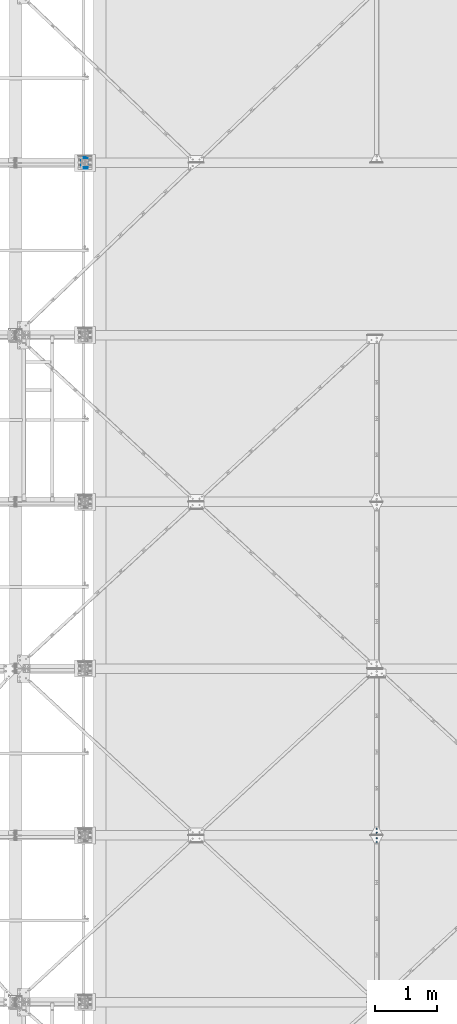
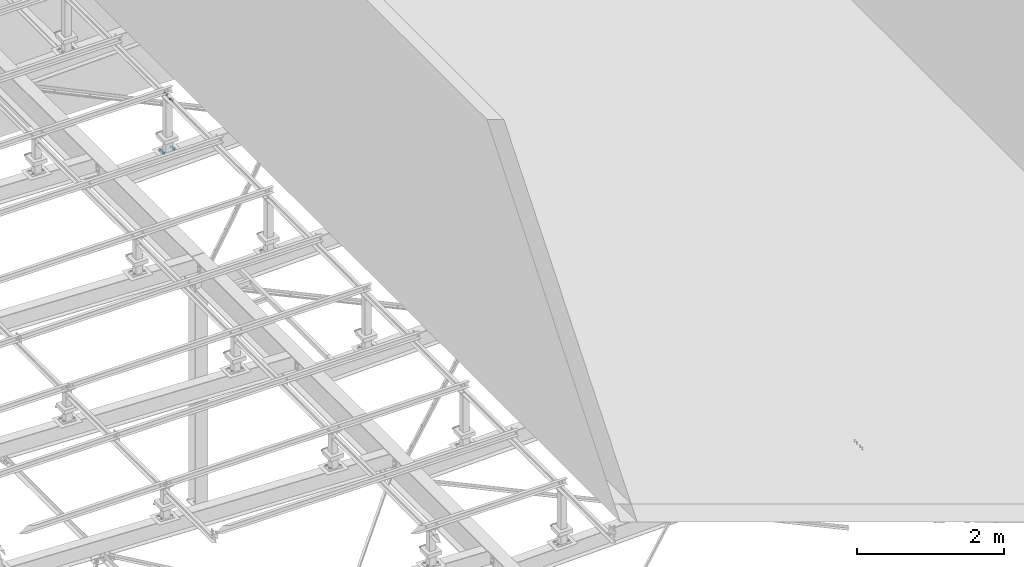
# One storey, part 194 of 3134: 5 mechanical fasteners, 4 elements without a shape of their own.
"""IFC2X3 building model written with IfcOpenShell, lengths in millimetres."""

from ifc_helpers import new_model, si_unit, frame, origin_with_axes, place, context, subcontext, project, spatial, faceted_brep, source, transform, mapped, material, type_object, element, aggregate, save


model = new_model("IFC2X3")

# Units and contexts
model_context = context("Model", 3, precision=1e-05, world=origin_with_axes())
body_context = subcontext(model_context, "Body", "Model", "MODEL_VIEW")
ifc_project = project(units=[si_unit("LENGTHUNIT", "METRE", prefix="MILLI"), si_unit("AREAUNIT", "SQUARE_METRE"), si_unit("VOLUMEUNIT", "CUBIC_METRE"), si_unit("MASSUNIT", "GRAM", prefix="KILO"), si_unit("TIMEUNIT", "SECOND"), si_unit("PLANEANGLEUNIT", "RADIAN"), si_unit("SOLIDANGLEUNIT", "STERADIAN"), si_unit("THERMODYNAMICTEMPERATUREUNIT", "DEGREE_CELSIUS"), si_unit("LUMINOUSINTENSITYUNIT", "LUMEN")], contexts=[model_context])

# Site, building, storey
site_placement = place(None, origin_with_axes())
site = spatial("IfcSite", under=ifc_project, at=site_placement, CompositionType="ELEMENT")
building_placement = place(site_placement, origin_with_axes())
building = spatial("IfcBuilding", under=site, at=building_placement, Name="Undefined", CompositionType="ELEMENT")
storey_placement = place(building_placement, origin_with_axes())
storey = spatial("IfcBuildingStorey", under=building, at=storey_placement, Name="Undefined", CompositionType="ELEMENT", Elevation=0.0)

# Assembly, mechanical fastener
assembly_1_placement = place(storey_placement, origin_with_axes())
assembly_1 = element("IfcElementAssembly", 1, at=assembly_1_placement, inside=storey, AssemblyPlace="NOTDEFINED", PredefinedType="RIGID_FRAME")
ifc_material = material(Name="8.8")
mechanical_fastener_type = type_object("IfcMechanicalFastenerType", Name="Bolt assembly")
shared_shape_1 = source(origin_with_axes(), body_context, "Body", "Brep", [
    faceted_brep([(10.9696551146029, -14.0, 0.0), (5.48482755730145, -14.0, 9.5), (-5.48482755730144, -14.0, 9.5), (-10.9696551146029, -14.0, 1.34339530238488e-15), (-5.48482755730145, -14.0, -9.5), (5.48482755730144, -14.0, -9.50000000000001), (5.48482755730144, -6.0, -9.50000000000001), (-5.48482755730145, -6.0, -9.5), (-10.9696551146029, -6.0, 1.34339530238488e-15), (-5.48482755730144, -6.0, 9.5), (5.48482755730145, -6.0, 9.5), (10.9696551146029, -6.0, 0.0), (6.0, -6.0, 0.0), (5.19615242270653, -6.0, 3.00000000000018), (2.99999999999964, -6.0, 5.19615242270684), (-6.21801588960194e-13, -6.0, 6.0), (-3.00000000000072, -6.0, 5.19615242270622), (-5.19615242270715, -6.0, 2.9999999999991), (-6.0, -6.0, -1.24360317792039e-12), (-5.19615242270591, -6.0, -3.00000000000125), (-2.99999999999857, -6.0, -5.19615242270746), (1.85874342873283e-12, -6.0, -6.0), (3.00000000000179, -6.0, -5.1961524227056), (5.19615242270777, -6.0, -2.99999999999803), (5.19615242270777, 24.0, -2.99999999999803), (3.00000000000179, 24.0, -5.1961524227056), (1.85874342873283e-12, 24.0, -6.0), (-2.99999999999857, 24.0, -5.19615242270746), (-5.19615242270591, 24.0, -3.00000000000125), (-6.0, 24.0, -1.24360317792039e-12), (-5.19615242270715, 24.0, 2.9999999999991), (-3.00000000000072, 24.0, 5.19615242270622), (-6.21801588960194e-13, 24.0, 6.0), (2.99999999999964, 24.0, 5.19615242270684), (5.19615242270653, 24.0, 3.00000000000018), (6.0, 24.0, 0.0), (10.9696551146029, 6.00000000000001, 0.0), (5.48482755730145, 6.00000000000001, 9.5), (-5.48482755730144, 6.00000000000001, 9.5), (-10.9696551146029, 6.00000000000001, 1.34339530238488e-15), (-5.48482755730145, 6.00000000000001, -9.5), (5.48482755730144, 6.00000000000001, -9.50000000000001), (5.48482755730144, 16.0, -9.50000000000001), (-5.48482755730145, 16.0, -9.5), (-10.9696551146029, 16.0, 1.34339530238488e-15), (-5.48482755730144, 16.0, 9.5), (5.48482755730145, 16.0, 9.5), (10.9696551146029, 16.0, 0.0)], [[[0, 1, 2, 3, 4, 5]], [[6, 7, 8, 9, 10, 11]], [[0, 11, 10, 1]], [[1, 10, 9, 2]], [[2, 9, 8, 3]], [[3, 8, 7, 4]], [[4, 7, 6, 5]], [[5, 6, 11, 0]], [[12, 13, 14, 15, 16, 17, 18, 19, 20, 21, 22, 23]], [[24, 25, 26, 27, 28, 29, 30, 31, 32, 33, 34, 35]], [[12, 35, 34, 13]], [[13, 34, 33, 14]], [[14, 33, 32, 15]], [[15, 32, 31, 16]], [[16, 31, 30, 17]], [[17, 30, 29, 18]], [[18, 29, 28, 19]], [[19, 28, 27, 20]], [[20, 27, 26, 21]], [[21, 26, 25, 22]], [[22, 25, 24, 23]], [[23, 24, 35, 12]], [[36, 37, 38, 39, 40, 41]], [[42, 43, 44, 45, 46, 47]], [[36, 47, 46, 37]], [[37, 46, 45, 38]], [[38, 45, 44, 39]], [[39, 44, 43, 40]], [[40, 43, 42, 41]], [[41, 42, 47, 36]]]),
    faceted_brep([(7.0, -5.9, 0.0), (6.06217782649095, -5.9, 3.50000000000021), (3.49999999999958, -5.9, 6.06217782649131), (-7.25435187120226e-13, -5.9, 7.0), (-3.50000000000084, -5.9, 6.06217782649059), (-6.06217782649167, -5.9, 3.49999999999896), (-7.0, -5.9, -1.45087037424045e-12), (-6.06217782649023, -5.9, -3.50000000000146), (-3.49999999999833, -5.9, -6.06217782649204), (2.1685340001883e-12, -5.9, -7.0), (3.50000000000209, -5.9, -6.06217782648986), (6.0621778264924, -5.9, -3.4999999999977), (6.0621778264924, 0.0999999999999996, -3.4999999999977), (3.50000000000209, 0.0999999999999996, -6.06217782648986), (2.1685340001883e-12, 0.0999999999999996, -7.0), (-3.49999999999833, 0.0999999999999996, -6.06217782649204), (-6.06217782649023, 0.0999999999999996, -3.50000000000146), (-7.0, 0.0999999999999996, -1.45087037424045e-12), (-6.06217782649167, 0.0999999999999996, 3.49999999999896), (-3.50000000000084, 0.0999999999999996, 6.06217782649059), (-7.25435187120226e-13, 0.0999999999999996, 7.0), (3.49999999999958, 0.0999999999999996, 6.06217782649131), (6.06217782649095, 0.0999999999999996, 3.50000000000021), (7.0, 0.0999999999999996, 0.0), (7.0, -0.1, 0.0), (6.06217782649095, -0.1, 3.50000000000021), (3.49999999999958, -0.1, 6.06217782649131), (-7.25435187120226e-13, -0.1, 7.0), (-3.50000000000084, -0.1, 6.06217782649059), (-6.06217782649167, -0.1, 3.49999999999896), (-7.0, -0.1, -1.45087037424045e-12), (-6.06217782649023, -0.1, -3.50000000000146), (-3.49999999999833, -0.1, -6.06217782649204), (2.1685340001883e-12, -0.1, -7.0), (3.50000000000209, -0.1, -6.06217782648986), (6.0621778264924, -0.1, -3.4999999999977), (6.0621778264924, 6.00000000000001, -3.4999999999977), (3.50000000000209, 6.00000000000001, -6.06217782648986), (2.1685340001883e-12, 6.00000000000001, -7.0), (-3.49999999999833, 6.00000000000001, -6.06217782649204), (-6.06217782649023, 6.00000000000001, -3.50000000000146), (-7.0, 6.00000000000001, -1.45087037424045e-12), (-6.06217782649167, 6.00000000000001, 3.49999999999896), (-3.50000000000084, 6.00000000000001, 6.06217782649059), (-7.25435187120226e-13, 6.00000000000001, 7.0), (3.49999999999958, 6.00000000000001, 6.06217782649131), (6.06217782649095, 6.00000000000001, 3.50000000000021), (7.0, 6.00000000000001, 0.0)], [[[0, 1, 2, 3, 4, 5, 6, 7, 8, 9, 10, 11]], [[12, 13, 14, 15, 16, 17, 18, 19, 20, 21, 22, 23]], [[0, 23, 22, 1]], [[1, 22, 21, 2]], [[2, 21, 20, 3]], [[3, 20, 19, 4]], [[4, 19, 18, 5]], [[5, 18, 17, 6]], [[6, 17, 16, 7]], [[7, 16, 15, 8]], [[8, 15, 14, 9]], [[9, 14, 13, 10]], [[10, 13, 12, 11]], [[11, 12, 23, 0]], [[24, 25, 26, 27, 28, 29, 30, 31, 32, 33, 34, 35]], [[36, 37, 38, 39, 40, 41, 42, 43, 44, 45, 46, 47]], [[24, 47, 46, 25]], [[25, 46, 45, 26]], [[26, 45, 44, 27]], [[27, 44, 43, 28]], [[28, 43, 42, 29]], [[29, 42, 41, 30]], [[30, 41, 40, 31]], [[31, 40, 39, 32]], [[32, 39, 38, 33]], [[33, 38, 37, 34]], [[34, 37, 36, 35]], [[35, 36, 47, 24]]]),
])
mechanical_fastener_1_placement = place(assembly_1_placement, frame((10440.0, 42928.33, 4265.0), z_axis=(-1.0, 0.0, 0.0), x_axis=(0.0, 1.0, 0.0)))
mechanical_fastener_1 = element("IfcMechanicalFastener", 2, at=mechanical_fastener_1_placement, type_object=mechanical_fastener_type, material=ifc_material, Name="Bolt assembly", NominalDiameter=12.0, NominalLength=30.0, context=body_context, shape_type="MappedRepresentation", body=[
    mapped(shared_shape_1, transform((0.0, 0.0, 0.0))),
    mapped(shared_shape_1, transform((160.0, 0.0, 0.0))),
])
aggregate(assembly_1, [mechanical_fastener_1])

assembly_2_placement = place(storey_placement, origin_with_axes())
assembly_2 = element("IfcElementAssembly", 3, at=assembly_2_placement, inside=storey, AssemblyPlace="NOTDEFINED", PredefinedType="RIGID_FRAME")
shared_shape_2 = source(origin_with_axes(), body_context, "Body", "Brep", [
    faceted_brep([(10.9696551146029, -14.0, 0.0), (5.48482755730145, -14.0, 9.5), (-5.48482755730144, -14.0, 9.5), (-10.9696551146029, -14.0, 1.34339530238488e-15), (-5.48482755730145, -14.0, -9.5), (5.48482755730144, -14.0, -9.50000000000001), (5.48482755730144, -6.0, -9.50000000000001), (-5.48482755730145, -6.0, -9.5), (-10.9696551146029, -6.0, 1.34339530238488e-15), (-5.48482755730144, -6.0, 9.5), (5.48482755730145, -6.0, 9.5), (10.9696551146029, -6.0, 0.0), (6.0, -6.0, 0.0), (5.19615242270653, -6.0, 3.00000000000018), (2.99999999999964, -6.0, 5.19615242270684), (-6.21801588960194e-13, -6.0, 6.0), (-3.00000000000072, -6.0, 5.19615242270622), (-5.19615242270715, -6.0, 2.9999999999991), (-6.0, -6.0, -1.24360317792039e-12), (-5.19615242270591, -6.0, -3.00000000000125), (-2.99999999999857, -6.0, -5.19615242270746), (1.85874342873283e-12, -6.0, -6.0), (3.00000000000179, -6.0, -5.1961524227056), (5.19615242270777, -6.0, -2.99999999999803), (5.19615242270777, 19.0, -2.99999999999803), (3.00000000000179, 19.0, -5.1961524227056), (1.85874342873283e-12, 19.0, -6.0), (-2.99999999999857, 19.0, -5.19615242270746), (-5.19615242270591, 19.0, -3.00000000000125), (-6.0, 19.0, -1.24360317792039e-12), (-5.19615242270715, 19.0, 2.9999999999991), (-3.00000000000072, 19.0, 5.19615242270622), (-6.21801588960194e-13, 19.0, 6.0), (2.99999999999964, 19.0, 5.19615242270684), (5.19615242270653, 19.0, 3.00000000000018), (6.0, 19.0, 0.0), (10.9696551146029, 4.00000000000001, 0.0), (5.48482755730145, 4.00000000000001, 9.5), (-5.48482755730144, 4.00000000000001, 9.5), (-10.9696551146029, 4.00000000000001, 1.34339530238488e-15), (-5.48482755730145, 4.00000000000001, -9.5), (5.48482755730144, 4.00000000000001, -9.50000000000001), (5.48482755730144, 14.0, -9.50000000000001), (-5.48482755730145, 14.0, -9.5), (-10.9696551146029, 14.0, 1.34339530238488e-15), (-5.48482755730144, 14.0, 9.5), (5.48482755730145, 14.0, 9.5), (10.9696551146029, 14.0, 0.0)], [[[0, 1, 2, 3, 4, 5]], [[6, 7, 8, 9, 10, 11]], [[0, 11, 10, 1]], [[1, 10, 9, 2]], [[2, 9, 8, 3]], [[3, 8, 7, 4]], [[4, 7, 6, 5]], [[5, 6, 11, 0]], [[12, 13, 14, 15, 16, 17, 18, 19, 20, 21, 22, 23]], [[24, 25, 26, 27, 28, 29, 30, 31, 32, 33, 34, 35]], [[12, 35, 34, 13]], [[13, 34, 33, 14]], [[14, 33, 32, 15]], [[15, 32, 31, 16]], [[16, 31, 30, 17]], [[17, 30, 29, 18]], [[18, 29, 28, 19]], [[19, 28, 27, 20]], [[20, 27, 26, 21]], [[21, 26, 25, 22]], [[22, 25, 24, 23]], [[23, 24, 35, 12]], [[36, 37, 38, 39, 40, 41]], [[42, 43, 44, 45, 46, 47]], [[36, 47, 46, 37]], [[37, 46, 45, 38]], [[38, 45, 44, 39]], [[39, 44, 43, 40]], [[40, 43, 42, 41]], [[41, 42, 47, 36]]]),
    faceted_brep([(7.0, -0.1, 0.0), (6.06217782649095, -0.1, 3.50000000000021), (3.49999999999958, -0.1, 6.06217782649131), (-7.25435187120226e-13, -0.1, 7.0), (-3.50000000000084, -0.1, 6.06217782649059), (-6.06217782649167, -0.1, 3.49999999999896), (-7.0, -0.1, -1.45087037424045e-12), (-6.06217782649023, -0.1, -3.50000000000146), (-3.49999999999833, -0.1, -6.06217782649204), (2.1685340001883e-12, -0.1, -7.0), (3.50000000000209, -0.1, -6.06217782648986), (6.0621778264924, -0.1, -3.4999999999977), (6.0621778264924, 4.00000000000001, -3.4999999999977), (3.50000000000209, 4.00000000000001, -6.06217782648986), (2.1685340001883e-12, 4.00000000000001, -7.0), (-3.49999999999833, 4.00000000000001, -6.06217782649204), (-6.06217782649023, 4.00000000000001, -3.50000000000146), (-7.0, 4.00000000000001, -1.45087037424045e-12), (-6.06217782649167, 4.00000000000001, 3.49999999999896), (-3.50000000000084, 4.00000000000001, 6.06217782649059), (-7.25435187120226e-13, 4.00000000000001, 7.0), (3.49999999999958, 4.00000000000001, 6.06217782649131), (6.06217782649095, 4.00000000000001, 3.50000000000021), (7.0, 4.00000000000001, 0.0), (7.0, -5.9, 0.0), (6.06217782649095, -5.9, 3.50000000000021), (3.49999999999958, -5.9, 6.06217782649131), (-7.25435187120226e-13, -5.9, 7.0), (-3.50000000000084, -5.9, 6.06217782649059), (-6.06217782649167, -5.9, 3.49999999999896), (-7.0, -5.9, -1.45087037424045e-12), (-6.06217782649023, -5.9, -3.50000000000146), (-3.49999999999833, -5.9, -6.06217782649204), (2.1685340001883e-12, -5.9, -7.0), (3.50000000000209, -5.9, -6.06217782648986), (6.0621778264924, -5.9, -3.4999999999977), (6.0621778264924, 0.0999999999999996, -3.4999999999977), (3.50000000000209, 0.0999999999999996, -6.06217782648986), (2.1685340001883e-12, 0.0999999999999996, -7.0), (-3.49999999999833, 0.0999999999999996, -6.06217782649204), (-6.06217782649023, 0.0999999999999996, -3.50000000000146), (-7.0, 0.0999999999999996, -1.45087037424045e-12), (-6.06217782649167, 0.0999999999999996, 3.49999999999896), (-3.50000000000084, 0.0999999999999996, 6.06217782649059), (-7.25435187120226e-13, 0.0999999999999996, 7.0), (3.49999999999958, 0.0999999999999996, 6.06217782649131), (6.06217782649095, 0.0999999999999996, 3.50000000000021), (7.0, 0.0999999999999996, 0.0)], [[[0, 1, 2, 3, 4, 5, 6, 7, 8, 9, 10, 11]], [[12, 13, 14, 15, 16, 17, 18, 19, 20, 21, 22, 23]], [[0, 23, 22, 1]], [[1, 22, 21, 2]], [[2, 21, 20, 3]], [[3, 20, 19, 4]], [[4, 19, 18, 5]], [[5, 18, 17, 6]], [[6, 17, 16, 7]], [[7, 16, 15, 8]], [[8, 15, 14, 9]], [[9, 14, 13, 10]], [[10, 13, 12, 11]], [[11, 12, 23, 0]], [[24, 25, 26, 27, 28, 29, 30, 31, 32, 33, 34, 35]], [[36, 37, 38, 39, 40, 41, 42, 43, 44, 45, 46, 47]], [[24, 47, 46, 25]], [[25, 46, 45, 26]], [[26, 45, 44, 27]], [[27, 44, 43, 28]], [[28, 43, 42, 29]], [[29, 42, 41, 30]], [[30, 41, 40, 31]], [[31, 40, 39, 32]], [[32, 39, 38, 33]], [[33, 38, 37, 34]], [[34, 37, 36, 35]], [[35, 36, 47, 24]]]),
])
mechanical_fastener_2_placement = place(assembly_2_placement, frame((10405.0, 42928.33, 4300.0), z_axis=(0.0, 0.0, 1.0), x_axis=(0.0, 1.0, 0.0)))
mechanical_fastener_2 = element("IfcMechanicalFastener", 4, at=mechanical_fastener_2_placement, type_object=mechanical_fastener_type, material=ifc_material, Name="Bolt assembly", NominalDiameter=12.0, NominalLength=25.0, context=body_context, shape_type="MappedRepresentation", body=[
    mapped(shared_shape_2, transform((0.0, 0.0, 0.0))),
    mapped(shared_shape_2, transform((160.0, 0.0, 0.0))),
])
aggregate(assembly_2, [mechanical_fastener_2])

# Assembly, mechanical fasteners
assembly_3_placement = place(storey_placement, origin_with_axes())
assembly_3 = element("IfcElementAssembly", 5, at=assembly_3_placement, inside=storey, Name="300", AssemblyPlace="NOTDEFINED", PredefinedType="RIGID_FRAME")
shared_shape_3 = source(origin_with_axes(), body_context, "Body", "Brep", [
    faceted_brep([(13.856406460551, -21.0000017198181, 0.0), (6.92820323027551, -21.0000017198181, 12.0), (-6.92820323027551, -21.0000017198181, 12.0), (-13.856406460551, -21.0000017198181, 1.69692038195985e-15), (-6.92820323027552, -21.0000017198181, -12.0), (6.9282032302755, -21.0000017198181, -12.0), (6.9282032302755, -11.0000017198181, -12.0), (-6.92820323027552, -11.0000017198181, -12.0), (-13.856406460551, -11.0000017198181, 1.69692038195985e-15), (-6.92820323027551, -11.0000017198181, 12.0), (6.92820323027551, -11.0000017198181, 12.0), (13.856406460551, -11.0000017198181, 0.0), (8.0, -11.0000017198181, 0.0), (6.92820323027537, -11.0000017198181, 4.00000000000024), (3.99999999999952, -11.0000017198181, 6.92820323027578), (-8.29068785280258e-13, -11.0000017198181, 8.0), (-4.00000000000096, -11.0000017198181, 6.92820323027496), (-6.9282032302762, -11.0000017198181, 3.99999999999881), (-8.0, -11.0000017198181, -1.65813757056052e-12), (-6.92820323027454, -11.0000017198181, -4.00000000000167), (-3.99999999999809, -11.0000017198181, -6.92820323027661), (2.47832457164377e-12, -11.0000017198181, -8.0), (4.00000000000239, -11.0000017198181, -6.92820323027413), (6.92820323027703, -11.0000017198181, -3.99999999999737), (6.92820323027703, 29.0, -3.99999999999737), (4.00000000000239, 29.0, -6.92820323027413), (2.47832457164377e-12, 29.0, -8.0), (-3.99999999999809, 29.0, -6.92820323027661), (-6.92820323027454, 29.0, -4.00000000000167), (-8.0, 29.0, -1.65813757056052e-12), (-6.9282032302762, 29.0, 3.99999999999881), (-4.00000000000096, 29.0, 6.92820323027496), (-8.29068785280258e-13, 29.0, 8.0), (3.99999999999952, 29.0, 6.92820323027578), (6.92820323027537, 29.0, 4.00000000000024), (8.0, 29.0, 0.0), (13.856406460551, 10.9999982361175, 0.0), (6.92820323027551, 10.9999982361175, 12.0), (-6.92820323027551, 10.9999982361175, 12.0), (-13.856406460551, 10.9999982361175, 1.69692038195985e-15), (-6.92820323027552, 10.9999982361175, -12.0), (6.9282032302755, 10.9999982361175, -12.0), (6.9282032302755, 23.9999999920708, -12.0), (-6.92820323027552, 23.9999999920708, -12.0), (-13.856406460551, 23.9999999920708, 1.69692038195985e-15), (-6.92820323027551, 23.9999999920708, 12.0), (6.92820323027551, 23.9999999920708, 12.0), (13.856406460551, 23.9999999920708, 0.0)], [[[0, 1, 2, 3, 4, 5]], [[6, 7, 8, 9, 10, 11]], [[0, 11, 10, 1]], [[1, 10, 9, 2]], [[2, 9, 8, 3]], [[3, 8, 7, 4]], [[4, 7, 6, 5]], [[5, 6, 11, 0]], [[12, 13, 14, 15, 16, 17, 18, 19, 20, 21, 22, 23]], [[24, 25, 26, 27, 28, 29, 30, 31, 32, 33, 34, 35]], [[12, 35, 34, 13]], [[13, 34, 33, 14]], [[14, 33, 32, 15]], [[15, 32, 31, 16]], [[16, 31, 30, 17]], [[17, 30, 29, 18]], [[18, 29, 28, 19]], [[19, 28, 27, 20]], [[20, 27, 26, 21]], [[21, 26, 25, 22]], [[22, 25, 24, 23]], [[23, 24, 35, 12]], [[36, 37, 38, 39, 40, 41]], [[42, 43, 44, 45, 46, 47]], [[36, 47, 46, 37]], [[37, 46, 45, 38]], [[38, 45, 44, 39]], [[39, 44, 43, 40]], [[40, 43, 42, 41]], [[41, 42, 47, 36]]]),
    faceted_brep([(9.0, -10.9000017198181, 0.0), (7.79422863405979, -10.9000017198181, 4.50000000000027), (4.49999999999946, -10.9000017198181, 7.79422863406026), (-9.3270238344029e-13, -10.9000017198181, 9.0), (-4.50000000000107, -10.9000017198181, 7.79422863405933), (-7.79422863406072, -10.9000017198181, 4.49999999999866), (-9.0, -10.9000017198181, -1.86540476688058e-12), (-7.79422863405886, -10.9000017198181, -4.50000000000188), (-4.49999999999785, -10.9000017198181, -7.79422863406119), (2.78811514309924e-12, -10.9000017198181, -9.0), (4.50000000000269, -10.9000017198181, -7.7942286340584), (7.79422863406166, -10.9000017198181, -4.49999999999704), (7.79422863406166, -3.9, -4.49999999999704), (4.50000000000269, -3.9, -7.7942286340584), (2.78811514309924e-12, -3.9, -9.0), (-4.49999999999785, -3.9, -7.79422863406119), (-7.79422863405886, -3.9, -4.50000000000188), (-9.0, -3.9, -1.86540476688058e-12), (-7.79422863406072, -3.9, 4.49999999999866), (-4.50000000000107, -3.9, 7.79422863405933), (-9.3270238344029e-13, -3.9, 9.0), (4.49999999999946, -3.9, 7.79422863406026), (7.79422863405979, -3.9, 4.50000000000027), (9.0, -3.9, 0.0), (9.0, -3.99999624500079, 0.0), (7.79422863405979, -3.99999624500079, 4.50000000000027), (4.49999999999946, -3.99999624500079, 7.79422863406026), (-9.3270238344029e-13, -3.99999624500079, 9.0), (-4.50000000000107, -3.99999624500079, 7.79422863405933), (-7.79422863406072, -3.99999624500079, 4.49999999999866), (-9.0, -3.99999624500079, -1.86540476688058e-12), (-7.79422863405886, -3.99999624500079, -4.50000000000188), (-4.49999999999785, -3.99999624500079, -7.79422863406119), (2.78811514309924e-12, -3.99999624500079, -9.0), (4.50000000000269, -3.99999624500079, -7.7942286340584), (7.79422863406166, -3.99999624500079, -4.49999999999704), (7.79422863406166, 4.00000375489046, -4.49999999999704), (4.50000000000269, 4.00000375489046, -7.7942286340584), (2.78811514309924e-12, 4.00000375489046, -9.0), (-4.49999999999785, 4.00000375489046, -7.79422863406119), (-7.79422863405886, 4.00000375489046, -4.50000000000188), (-9.0, 4.00000375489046, -1.86540476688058e-12), (-7.79422863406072, 4.00000375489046, 4.49999999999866), (-4.50000000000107, 4.00000375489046, 7.79422863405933), (-9.3270238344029e-13, 4.00000375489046, 9.0), (4.49999999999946, 4.00000375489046, 7.79422863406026), (7.79422863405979, 4.00000375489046, 4.50000000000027), (9.0, 4.00000375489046, 0.0), (9.0, 3.9, 0.0), (7.79422863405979, 3.9, 4.50000000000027), (4.49999999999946, 3.9, 7.79422863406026), (-9.3270238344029e-13, 3.9, 9.0), (-4.50000000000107, 3.9, 7.79422863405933), (-7.79422863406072, 3.9, 4.49999999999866), (-9.0, 3.9, -1.86540476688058e-12), (-7.79422863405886, 3.9, -4.50000000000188), (-4.49999999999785, 3.9, -7.79422863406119), (2.78811514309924e-12, 3.9, -9.0), (4.50000000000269, 3.9, -7.7942286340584), (7.79422863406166, 3.9, -4.49999999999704), (7.79422863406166, 10.9999982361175, -4.49999999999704), (4.50000000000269, 10.9999982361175, -7.7942286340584), (2.78811514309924e-12, 10.9999982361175, -9.0), (-4.49999999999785, 10.9999982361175, -7.79422863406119), (-7.79422863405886, 10.9999982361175, -4.50000000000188), (-9.0, 10.9999982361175, -1.86540476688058e-12), (-7.79422863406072, 10.9999982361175, 4.49999999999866), (-4.50000000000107, 10.9999982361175, 7.79422863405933), (-9.3270238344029e-13, 10.9999982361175, 9.0), (4.49999999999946, 10.9999982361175, 7.79422863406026), (7.79422863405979, 10.9999982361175, 4.50000000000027), (9.0, 10.9999982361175, 0.0)], [[[0, 1, 2, 3, 4, 5, 6, 7, 8, 9, 10, 11]], [[12, 13, 14, 15, 16, 17, 18, 19, 20, 21, 22, 23]], [[0, 23, 22, 1]], [[1, 22, 21, 2]], [[2, 21, 20, 3]], [[3, 20, 19, 4]], [[4, 19, 18, 5]], [[5, 18, 17, 6]], [[6, 17, 16, 7]], [[7, 16, 15, 8]], [[8, 15, 14, 9]], [[9, 14, 13, 10]], [[10, 13, 12, 11]], [[11, 12, 23, 0]], [[24, 25, 26, 27, 28, 29, 30, 31, 32, 33, 34, 35]], [[36, 37, 38, 39, 40, 41, 42, 43, 44, 45, 46, 47]], [[24, 47, 46, 25]], [[25, 46, 45, 26]], [[26, 45, 44, 27]], [[27, 44, 43, 28]], [[28, 43, 42, 29]], [[29, 42, 41, 30]], [[30, 41, 40, 31]], [[31, 40, 39, 32]], [[32, 39, 38, 33]], [[33, 38, 37, 34]], [[34, 37, 36, 35]], [[35, 36, 47, 24]], [[48, 49, 50, 51, 52, 53, 54, 55, 56, 57, 58, 59]], [[60, 61, 62, 63, 64, 65, 66, 67, 68, 69, 70, 71]], [[48, 71, 70, 49]], [[49, 70, 69, 50]], [[50, 69, 68, 51]], [[51, 68, 67, 52]], [[52, 67, 66, 53]], [[53, 66, 65, 54]], [[54, 65, 64, 55]], [[55, 64, 63, 56]], [[56, 63, 62, 57]], [[57, 62, 61, 58]], [[58, 61, 60, 59]], [[59, 60, 71, 48]]]),
])
mechanical_fastener_3_placement = place(assembly_3_placement, frame((15072.5010771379, 32288.75, 3386.35293761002), z_axis=(-0.999519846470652, 0.0, -0.0309851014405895), x_axis=(0.0, 1.0, 0.0)))
mechanical_fastener_3 = element("IfcMechanicalFastener", 6, at=mechanical_fastener_3_placement, type_object=mechanical_fastener_type, material=ifc_material, Name="Bolt assembly", NominalDiameter=16.0, NominalLength=40.0, context=body_context, shape_type="MappedRepresentation", body=[
    mapped(shared_shape_3, transform((0.0, 0.0, 0.0))),
    mapped(shared_shape_3, transform((59.9999999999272, 0.0, 5.40239852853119e-10))),
])
mechanical_fastener_4_placement = place(assembly_3_placement, frame((15072.5010771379, 32198.75, 3386.35293761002), z_axis=(0.999519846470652, 0.0, 0.0309851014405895), x_axis=(0.0, -1.0, 0.0)))
mechanical_fastener_4 = element("IfcMechanicalFastener", 7, at=mechanical_fastener_4_placement, type_object=mechanical_fastener_type, material=ifc_material, Name="Bolt assembly", NominalDiameter=16.0, NominalLength=40.0, context=body_context, shape_type="MappedRepresentation", body=[
    mapped(shared_shape_3, transform((0.0, 0.0, 0.0))),
    mapped(shared_shape_3, transform((59.9999999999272, 0.0, 5.40239852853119e-10))),
])
aggregate(assembly_3, [mechanical_fastener_3, mechanical_fastener_4])

# Assembly, mechanical fastener
assembly_4_placement = place(storey_placement, origin_with_axes())
assembly_4 = element("IfcElementAssembly", 8, at=assembly_4_placement, inside=storey, AssemblyPlace="NOTDEFINED", PredefinedType="RIGID_FRAME")
shared_shape_4 = source(origin_with_axes(), body_context, "Body", "Brep", [
    faceted_brep([(7.0, 13.0000253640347, 0.0), (6.06217782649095, 13.0000253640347, 3.50000000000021), (3.49999999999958, 13.0000253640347, 6.06217782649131), (-7.25435187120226e-13, 13.0000253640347, 7.0), (-3.50000000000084, 13.0000253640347, 6.06217782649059), (-6.06217782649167, 13.0000253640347, 3.49999999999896), (-7.0, 13.0000253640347, -1.45087037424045e-12), (-6.06217782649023, 13.0000253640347, -3.50000000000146), (-3.49999999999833, 13.0000253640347, -6.06217782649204), (2.1685340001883e-12, 13.0000253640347, -7.0), (3.50000000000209, 13.0000253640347, -6.06217782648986), (6.0621778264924, 13.0000253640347, -3.4999999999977), (6.0621778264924, 15.0999999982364, -3.4999999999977), (3.50000000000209, 15.0999999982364, -6.06217782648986), (2.1685340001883e-12, 15.0999999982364, -7.0), (-3.49999999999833, 15.0999999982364, -6.06217782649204), (-6.06217782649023, 15.0999999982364, -3.50000000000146), (-7.0, 15.0999999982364, -1.45087037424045e-12), (-6.06217782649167, 15.0999999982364, 3.49999999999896), (-3.50000000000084, 15.0999999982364, 6.06217782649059), (-7.25435187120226e-13, 15.0999999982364, 7.0), (3.49999999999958, 15.0999999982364, 6.06217782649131), (6.06217782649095, 15.0999999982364, 3.50000000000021), (7.0, 15.0999999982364, 0.0)], [[[0, 1, 2, 3, 4, 5, 6, 7, 8, 9, 10, 11]], [[12, 13, 14, 15, 16, 17, 18, 19, 20, 21, 22, 23]], [[0, 23, 22, 1]], [[1, 22, 21, 2]], [[2, 21, 20, 3]], [[3, 20, 19, 4]], [[4, 19, 18, 5]], [[5, 18, 17, 6]], [[6, 17, 16, 7]], [[7, 16, 15, 8]], [[8, 15, 14, 9]], [[9, 14, 13, 10]], [[10, 13, 12, 11]], [[11, 12, 23, 0]]]),
])
mechanical_fastener_5_placement = place(assembly_4_placement, frame((10405.7748812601, 42970.33, 3374.2272055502), z_axis=(0.999519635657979, 0.0, 0.0309919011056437), x_axis=(0.0, 1.0, 0.0)))
mechanical_fastener_5 = element("IfcMechanicalFastener", 9, at=mechanical_fastener_5_placement, type_object=mechanical_fastener_type, material=ifc_material, Name="Bolt assembly", NominalDiameter=12.0, NominalLength=2.0, context=body_context, shape_type="MappedRepresentation", body=[
    mapped(shared_shape_4, transform((0.0, -5.32963895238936e-10, -79.9999999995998))),
    mapped(shared_shape_4, transform((76.0, -5.32963895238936e-10, -79.9999999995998))),
    mapped(shared_shape_4, transform((0.0, 5.3114490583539e-10, 79.9999999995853))),
    mapped(shared_shape_4, transform((76.0, 5.3114490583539e-10, 79.9999999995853))),
])
aggregate(assembly_4, [mechanical_fastener_5])

save(model, "model.ifc")
